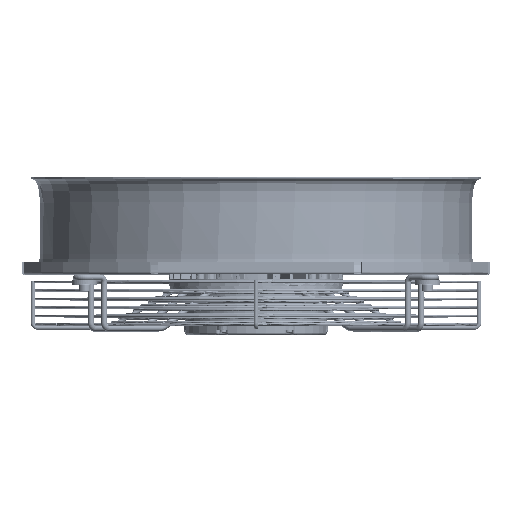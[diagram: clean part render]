
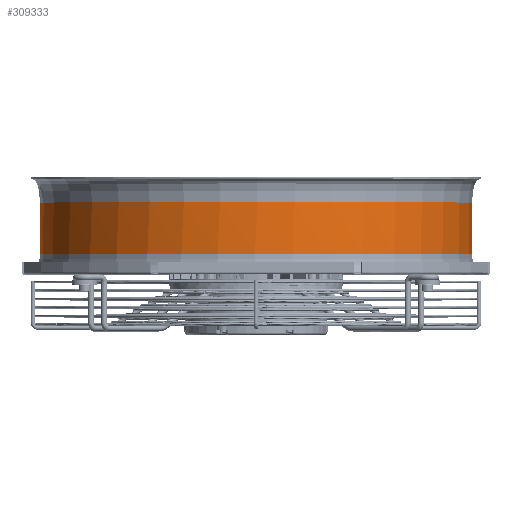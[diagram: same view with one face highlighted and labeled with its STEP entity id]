
A CAD part, top view. The second image highlights one B-rep face of the part: STEP entity #309333.
In plain terms, the highlighted cylindrical face has radius 254 mm (diameter 508 mm), a partial arc.
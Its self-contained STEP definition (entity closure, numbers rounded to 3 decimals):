
#306765=CARTESIAN_POINT('',(0.,0.,108.238));
#306766=DIRECTION('',(0.,0.,-1.));
#306767=DIRECTION('',(-1.,0.,0.));
#306768=AXIS2_PLACEMENT_3D('',#306765,#306766,#306767);
#306773=CARTESIAN_POINT('',(0.,0.,108.238));
#306774=DIRECTION('',(0.,0.,-1.));
#306775=DIRECTION('',(1.,0.009,0.));
#306776=AXIS2_PLACEMENT_3D('',#306773,#306774,#306775);
#306791=DIRECTION('',(0.,0.,-1.));
#306792=VECTOR('',#306791,60.772);
#306793=CARTESIAN_POINT('',(254.,0.,
108.238));
#306794=LINE('',#306793,#306792);
#306798=DIRECTION('',(0.,0.,1.));
#306799=VECTOR('',#306798,60.772);
#306800=CARTESIAN_POINT('',(-254.,0.,
47.465));
#306801=LINE('',#306800,#306799);
#306837=CARTESIAN_POINT('',(254.,0.,
47.465));
#306878=CARTESIAN_POINT('',(0.,0.,47.465));
#306879=DIRECTION('',(0.,0.,1.));
#306880=DIRECTION('',(1.,0.,0.));
#306881=AXIS2_PLACEMENT_3D('',#306878,#306879,#306880);
#306886=CARTESIAN_POINT('',(0.,0.,47.465));
#306887=DIRECTION('',(0.,0.,1.));
#306888=DIRECTION('',(-1.,0.013,0.));
#306889=AXIS2_PLACEMENT_3D('',#306886,#306887,#306888);
#307196=VERTEX_POINT('',#306837);
#307197=CARTESIAN_POINT('',(-253.979,3.311,
47.465));
#307198=VERTEX_POINT('',#307197);
#307199=CARTESIAN_POINT('',(-254.,0.,47.465));
#307200=VERTEX_POINT('',#307199);
#307203=CARTESIAN_POINT('',(254.,0.,
108.238));
#307205=VERTEX_POINT('',#307203);
#307207=CARTESIAN_POINT('',(-254.,0.,
108.238));
#307208=VERTEX_POINT('',#307207);
#307329=CARTESIAN_POINT('',(253.989,2.331,
108.238));
#307330=VERTEX_POINT('',#307329);
#309316=CARTESIAN_POINT('',(0.,0.,15.286));
#309317=DIRECTION('',(0.,0.,-1.));
#309318=DIRECTION('',(-1.,0.,0.));
#309319=AXIS2_PLACEMENT_3D('',#309316,#309317,#309318);
#309320=CYLINDRICAL_SURFACE('',#309319,254.);
#309321=ORIENTED_EDGE('',*,*,#309310,.F.);
#309322=ORIENTED_EDGE('',*,*,#309308,.F.);
#309324=ORIENTED_EDGE('',*,*,#309323,.F.);
#309326=ORIENTED_EDGE('',*,*,#309325,.F.);
#309328=ORIENTED_EDGE('',*,*,#309327,.F.);
#309330=ORIENTED_EDGE('',*,*,#309329,.F.);
#309331=EDGE_LOOP('',(#309321,#309322,#309324,#309326,#309328,#309330));
#309332=FACE_OUTER_BOUND('',#309331,.F.);
#306769=CIRCLE('',#306768,254.);
#306777=CIRCLE('',#306776,254.);
#306882=CIRCLE('',#306881,254.);
#306890=CIRCLE('',#306889,254.);
#309308=EDGE_CURVE('',#307208,#307330,#306769,.T.);
#309310=EDGE_CURVE('',#307330,#307205,#306777,.T.);
#309323=EDGE_CURVE('',#307200,#307208,#306801,.T.);
#309325=EDGE_CURVE('',#307198,#307200,#306890,.T.);
#309327=EDGE_CURVE('',#307196,#307198,#306882,.T.);
#309329=EDGE_CURVE('',#307205,#307196,#306794,.T.);
#309333=ADVANCED_FACE('',(#309332),#309320,.T.);
